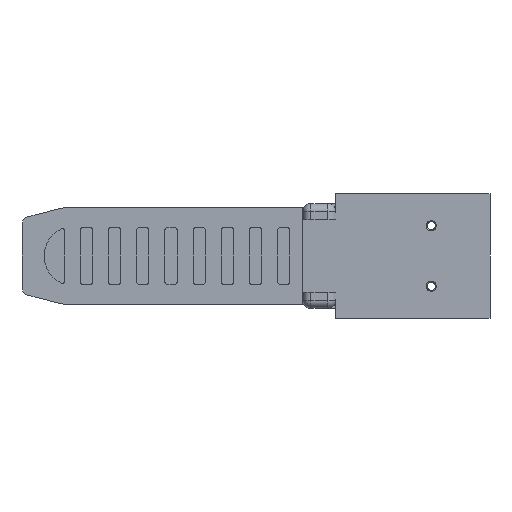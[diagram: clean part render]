
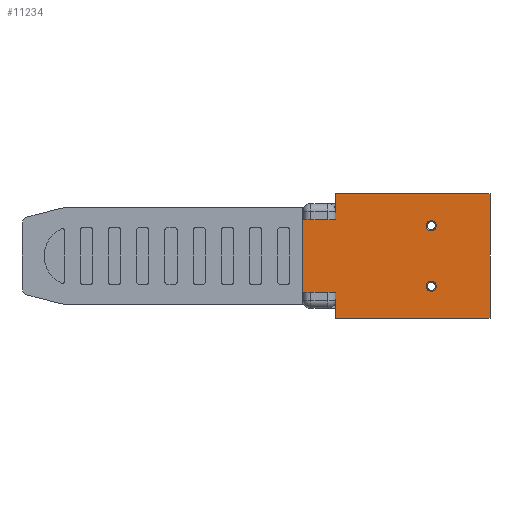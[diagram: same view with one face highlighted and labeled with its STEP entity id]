
A CAD part, front view. The second image highlights one B-rep face of the part: STEP entity #11234.
In plain terms, the highlighted planar face has unit normal (0, -1, 0).
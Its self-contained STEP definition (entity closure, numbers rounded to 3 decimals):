
#121 = CARTESIAN_POINT ( 'NONE',  ( 12.9, -5., 7.5 ) ) ;
#267 = LINE ( 'NONE', #5168, #5986 ) ;
#492 = FACE_BOUND ( 'NONE', #11620, .T. ) ;
#503 = EDGE_LOOP ( 'NONE', ( #14803, #10632 ) ) ;
#515 = PLANE ( 'NONE',  #2450 ) ;
#604 = ORIENTED_EDGE ( 'NONE', *, *, #7453, .F. ) ;
#710 = CARTESIAN_POINT ( 'NONE',  ( 12.9, -5., -6.25 ) ) ;
#1054 = VERTEX_POINT ( 'NONE', #9246 ) ;
#1067 = LINE ( 'NONE', #13738, #12009 ) ;
#1187 = CARTESIAN_POINT ( 'NONE',  ( -19., -5., -10.9 ) ) ;
#1259 = VERTEX_POINT ( 'NONE', #7836 ) ;
#1364 = DIRECTION ( 'NONE',  ( 0., 0., 1. ) ) ;
#1476 = VECTOR ( 'NONE', #8377, 1000. ) ;
#1594 = CARTESIAN_POINT ( 'NONE',  ( 12.9, -5., -7.5 ) ) ;
#2427 = DIRECTION ( 'NONE',  ( -1., 0., 0. ) ) ;
#2449 = CARTESIAN_POINT ( 'NONE',  ( 12.9, -5., 8.75 ) ) ;
#2450 = AXIS2_PLACEMENT_3D ( 'NONE', #6659, #15283, #7886 ) ;
#2704 = CARTESIAN_POINT ( 'NONE',  ( 27.5, -5., 15.5 ) ) ;
#2770 = VERTEX_POINT ( 'NONE', #7276 ) ;
#2822 = DIRECTION ( 'NONE',  ( 0., 0., 1. ) ) ;
#2866 = CARTESIAN_POINT ( 'NONE',  ( -19., -5., 15.5 ) ) ;
#3287 = EDGE_CURVE ( 'NONE', #14461, #4319, #5280, .T. ) ;
#3352 = ORIENTED_EDGE ( 'NONE', *, *, #7982, .F. ) ;
#3465 = AXIS2_PLACEMENT_3D ( 'NONE', #121, #8670, #1364 ) ;
#3924 = AXIS2_PLACEMENT_3D ( 'NONE', #6021, #14666, #7251 ) ;
#3961 = EDGE_CURVE ( 'NONE', #15915, #4319, #15878, .T. ) ;
#4049 = AXIS2_PLACEMENT_3D ( 'NONE', #12264, #4888, #13518 ) ;
#4073 = DIRECTION ( 'NONE',  ( 1., 0., 0. ) ) ;
#4178 = LINE ( 'NONE', #12723, #10718 ) ;
#4233 = VECTOR ( 'NONE', #4821, 1000. ) ;
#4319 = VERTEX_POINT ( 'NONE', #13448 ) ;
#4582 = CIRCLE ( 'NONE', #4049, 1.25 ) ;
#4600 = AXIS2_PLACEMENT_3D ( 'NONE', #1594, #10154, #2822 ) ;
#4821 = DIRECTION ( 'NONE',  ( 1., 0., 0. ) ) ;
#4888 = DIRECTION ( 'NONE',  ( 0., 1., 0. ) ) ;
#5168 = CARTESIAN_POINT ( 'NONE',  ( -10.8, -5., 15.5 ) ) ;
#5280 = LINE ( 'NONE', #1187, #14724 ) ;
#5285 = ORIENTED_EDGE ( 'NONE', *, *, #9317, .T. ) ;
#5299 = ORIENTED_EDGE ( 'NONE', *, *, #3961, .T. ) ;
#5302 = DIRECTION ( 'NONE',  ( 1., 0., 0. ) ) ;
#5986 = VECTOR ( 'NONE', #15030, 1000. ) ;
#6021 = CARTESIAN_POINT ( 'NONE',  ( 12.9, -5., -7.5 ) ) ;
#6346 = DIRECTION ( 'NONE',  ( 0., 0., -1. ) ) ;
#6586 = EDGE_LOOP ( 'NONE', ( #15592, #14707, #5285, #604, #3352, #12248, #15813, #5299 ) ) ;
#6605 = FACE_OUTER_BOUND ( 'NONE', #6586, .T. ) ;
#6659 = CARTESIAN_POINT ( 'NONE',  ( -19., -5., 15.5 ) ) ;
#6775 = EDGE_CURVE ( 'NONE', #14461, #1259, #267, .T. ) ;
#7251 = DIRECTION ( 'NONE',  ( 0., 0., 1. ) ) ;
#7276 = CARTESIAN_POINT ( 'NONE',  ( 12.9, -5., -8.75 ) ) ;
#7283 = CARTESIAN_POINT ( 'NONE',  ( -19., -5., -15.5 ) ) ;
#7453 = EDGE_CURVE ( 'NONE', #7923, #1054, #15775, .T. ) ;
#7472 = CARTESIAN_POINT ( 'NONE',  ( -10.8, -5., 15.5 ) ) ;
#7520 = CARTESIAN_POINT ( 'NONE',  ( 27.5, -5., 15.5 ) ) ;
#7661 = VECTOR ( 'NONE', #4073, 1000. ) ;
#7836 = CARTESIAN_POINT ( 'NONE',  ( -10.8, -5., -15.5 ) ) ;
#7886 = DIRECTION ( 'NONE',  ( 0., 0., 1. ) ) ;
#7923 = VERTEX_POINT ( 'NONE', #2704 ) ;
#7982 = EDGE_CURVE ( 'NONE', #8414, #7923, #14219, .T. ) ;
#8285 = VERTEX_POINT ( 'NONE', #710 ) ;
#8377 = DIRECTION ( 'NONE',  ( 0., 0., -1. ) ) ;
#8414 = VERTEX_POINT ( 'NONE', #7472 ) ;
#8670 = DIRECTION ( 'NONE',  ( 0., 1., 0. ) ) ;
#8721 = VERTEX_POINT ( 'NONE', #9515 ) ;
#8778 = ORIENTED_EDGE ( 'NONE', *, *, #14398, .T. ) ;
#9003 = CARTESIAN_POINT ( 'NONE',  ( -10.8, -5., -10.9 ) ) ;
#9246 = CARTESIAN_POINT ( 'NONE',  ( 27.5, -5., -15.5 ) ) ;
#9317 = EDGE_CURVE ( 'NONE', #1259, #1054, #10398, .T. ) ;
#9477 = CIRCLE ( 'NONE', #3465, 1.25 ) ;
#9515 = CARTESIAN_POINT ( 'NONE',  ( 12.9, -5., 6.25 ) ) ;
#10125 = EDGE_CURVE ( 'NONE', #15915, #12785, #4178, .T. ) ;
#10154 = DIRECTION ( 'NONE',  ( 0., 1., 0. ) ) ;
#10398 = LINE ( 'NONE', #7283, #4233 ) ;
#10467 = CARTESIAN_POINT ( 'NONE',  ( -19., -5., 10.9 ) ) ;
#10632 = ORIENTED_EDGE ( 'NONE', *, *, #11501, .T. ) ;
#10718 = VECTOR ( 'NONE', #5302, 1000. ) ;
#11102 = EDGE_CURVE ( 'NONE', #8414, #12785, #1067, .T. ) ;
#11234 = ADVANCED_FACE ( 'NONE', ( #492, #13162, #6605 ), #515, .F. ) ;
#11244 = DIRECTION ( 'NONE',  ( 0., 0., -1. ) ) ;
#11251 = CIRCLE ( 'NONE', #4600, 1.25 ) ;
#11501 = EDGE_CURVE ( 'NONE', #8721, #12594, #9477, .T. ) ;
#11620 = EDGE_LOOP ( 'NONE', ( #12345, #8778 ) ) ;
#12009 = VECTOR ( 'NONE', #6346, 1000. ) ;
#12248 = ORIENTED_EDGE ( 'NONE', *, *, #11102, .T. ) ;
#12264 = CARTESIAN_POINT ( 'NONE',  ( 12.9, -5., 7.5 ) ) ;
#12345 = ORIENTED_EDGE ( 'NONE', *, *, #15023, .T. ) ;
#12500 = VECTOR ( 'NONE', #11244, 1000. ) ;
#12594 = VERTEX_POINT ( 'NONE', #2449 ) ;
#12723 = CARTESIAN_POINT ( 'NONE',  ( -19., -5., 10.9 ) ) ;
#12779 = CIRCLE ( 'NONE', #3924, 1.25 ) ;
#12785 = VERTEX_POINT ( 'NONE', #13111 ) ;
#13111 = CARTESIAN_POINT ( 'NONE',  ( -10.8, -5., 10.9 ) ) ;
#13162 = FACE_BOUND ( 'NONE', #503, .T. ) ;
#13448 = CARTESIAN_POINT ( 'NONE',  ( -19., -5., -10.9 ) ) ;
#13518 = DIRECTION ( 'NONE',  ( 0., 0., 1. ) ) ;
#13738 = CARTESIAN_POINT ( 'NONE',  ( -10.8, -5., 15.5 ) ) ;
#14219 = LINE ( 'NONE', #2866, #7661 ) ;
#14398 = EDGE_CURVE ( 'NONE', #2770, #8285, #11251, .T. ) ;
#14461 = VERTEX_POINT ( 'NONE', #9003 ) ;
#14605 = CARTESIAN_POINT ( 'NONE',  ( -19., -5., 15.5 ) ) ;
#14666 = DIRECTION ( 'NONE',  ( 0., 1., 0. ) ) ;
#14707 = ORIENTED_EDGE ( 'NONE', *, *, #6775, .T. ) ;
#14724 = VECTOR ( 'NONE', #2427, 1000. ) ;
#14803 = ORIENTED_EDGE ( 'NONE', *, *, #15429, .T. ) ;
#15023 = EDGE_CURVE ( 'NONE', #8285, #2770, #12779, .T. ) ;
#15030 = DIRECTION ( 'NONE',  ( 0., 0., -1. ) ) ;
#15283 = DIRECTION ( 'NONE',  ( 0., 1., 0. ) ) ;
#15429 = EDGE_CURVE ( 'NONE', #12594, #8721, #4582, .T. ) ;
#15592 = ORIENTED_EDGE ( 'NONE', *, *, #3287, .F. ) ;
#15775 = LINE ( 'NONE', #7520, #12500 ) ;
#15813 = ORIENTED_EDGE ( 'NONE', *, *, #10125, .F. ) ;
#15878 = LINE ( 'NONE', #14605, #1476 ) ;
#15915 = VERTEX_POINT ( 'NONE', #10467 ) ;
